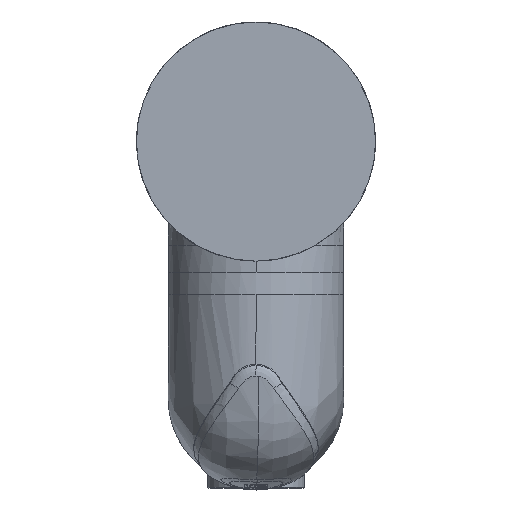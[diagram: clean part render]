
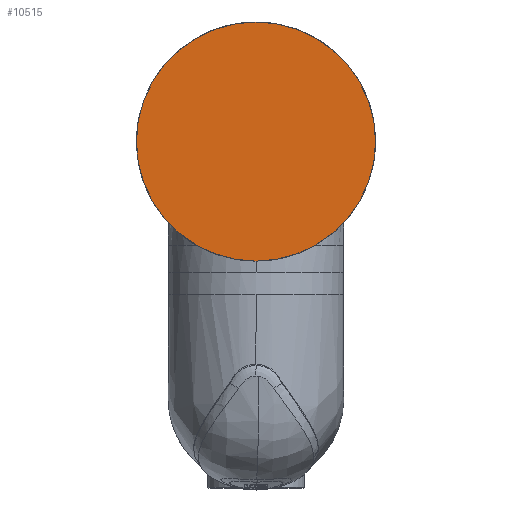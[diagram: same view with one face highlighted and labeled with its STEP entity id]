
A CAD part, front view. The second image highlights one B-rep face of the part: STEP entity #10515.
In plain terms, the highlighted planar face has unit normal (0, -1, 0).
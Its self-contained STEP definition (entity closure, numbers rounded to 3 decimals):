
#1588 = CARTESIAN_POINT ( 'NONE',  ( 0., 0., -122.5 ) ) ;
#10205 = CIRCLE ( 'NONE', #25125, 122.5 ) ;
#10515 = ADVANCED_FACE ( 'NONE', ( #52620 ), #106296, .F. ) ;
#15913 = CARTESIAN_POINT ( 'NONE',  ( -79.75, 0., 0. ) ) ;
#19554 = EDGE_LOOP ( 'NONE', ( #107998, #32087 ) ) ;
#22685 = DIRECTION ( 'NONE',  ( 0., 0., -1. ) ) ;
#23364 = CIRCLE ( 'NONE', #51360, 122.5 ) ;
#25125 = AXIS2_PLACEMENT_3D ( 'NONE', #84548, #48382, #22685 ) ;
#32087 = ORIENTED_EDGE ( 'NONE', *, *, #111826, .T. ) ;
#37467 = VERTEX_POINT ( 'NONE', #1588 ) ;
#40715 = EDGE_CURVE ( 'NONE', #37467, #93135, #23364, .T. ) ;
#44438 = DIRECTION ( 'NONE',  ( 0., 0., -1. ) ) ;
#44769 = DIRECTION ( 'NONE',  ( 0., 0., -1. ) ) ;
#48382 = DIRECTION ( 'NONE',  ( 0., -1., 0. ) ) ;
#50763 = CARTESIAN_POINT ( 'NONE',  ( 0., 0., 122.5 ) ) ;
#51360 = AXIS2_PLACEMENT_3D ( 'NONE', #89107, #61092, #44769 ) ;
#52620 = FACE_OUTER_BOUND ( 'NONE', #19554, .T. ) ;
#61092 = DIRECTION ( 'NONE',  ( 0., -1., 0. ) ) ;
#84548 = CARTESIAN_POINT ( 'NONE',  ( 0., 0., 0. ) ) ;
#89107 = CARTESIAN_POINT ( 'NONE',  ( 0., 0., 0. ) ) ;
#93135 = VERTEX_POINT ( 'NONE', #50763 ) ;
#101180 = AXIS2_PLACEMENT_3D ( 'NONE', #15913, #114429, #44438 ) ;
#106296 = PLANE ( 'NONE',  #101180 ) ;
#107998 = ORIENTED_EDGE ( 'NONE', *, *, #40715, .T. ) ;
#111826 = EDGE_CURVE ( 'NONE', #93135, #37467, #10205, .T. ) ;
#114429 = DIRECTION ( 'NONE',  ( 0., 1., 0. ) ) ;
